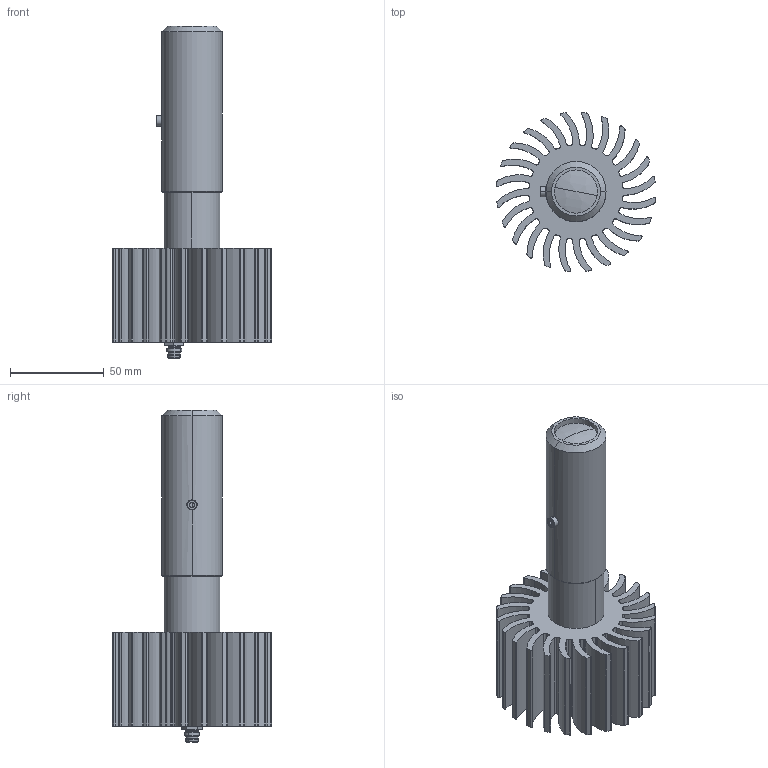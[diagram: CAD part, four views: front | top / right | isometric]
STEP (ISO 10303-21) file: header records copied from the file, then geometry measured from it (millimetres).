
FILE_DESCRIPTION (( 'STEP AP214' ), '1' );
FILE_NAME ('EFFI SHARP POWER_FF_STR.STEP', '2024-07-31T10:12:06', ( '' ), ( '' ), 'SwSTEP 2.0', 'SolidWorks 2024', '' );
FILE_SCHEMA (( 'AUTOMOTIVE_DESIGN' ));
Length unit declared in the file: millimetre
Products named in the file (1): EFFI SHARP POWER_FF_STR
Bounding box: 84.75 x 84.75 x 176.7 mm (x, y, z)
Surface area: 82488.1 mm2 (no closed solid volume)
Topology: 0 solids, 7 shells, 303 faces, 901 edges, 598 vertices
Faces by surface type: cylinder 260, plane 20, cone 12, bspline 11
Entity records: 14114 total; most frequent: CARTESIAN_POINT 2206, DIRECTION 2030, ORIENTED_EDGE 1720, EDGE_CURVE 895, AXIS2_PLACEMENT_3D 858, VERTEX_POINT 598, CIRCLE 565, EDGE_LOOP 326
